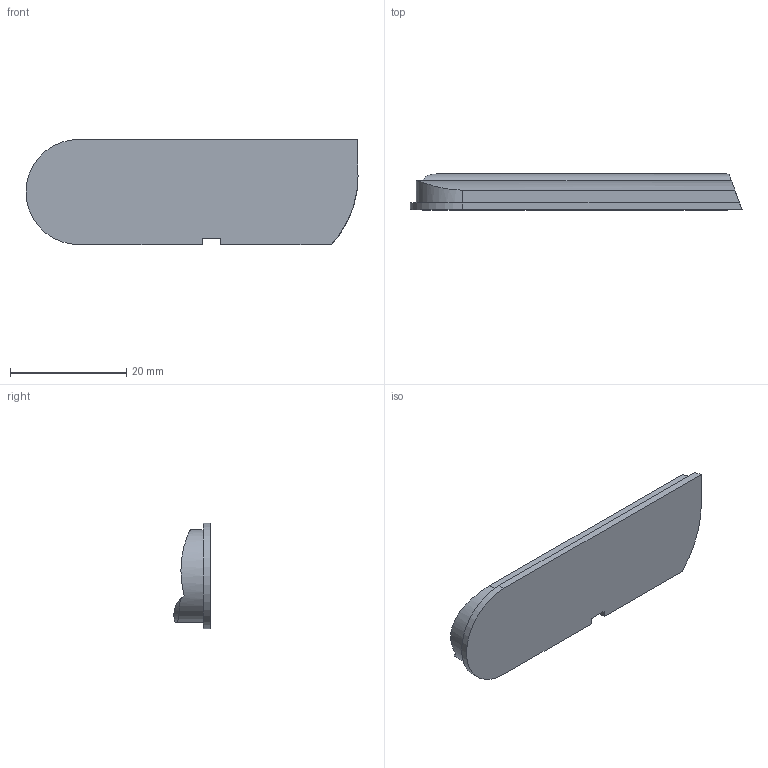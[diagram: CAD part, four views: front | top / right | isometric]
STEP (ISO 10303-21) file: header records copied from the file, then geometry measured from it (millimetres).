
FILE_DESCRIPTION(/* description */ (''),/* implementation_level */ '2;1');
FILE_NAME(/* name */ 'Modular Forward Assist Delete v3.step',/* time_stamp */ '2022-12-09T17:20:50-05:00',/* author */ (''),/* organization */ (''),/* preprocessor_version */ 'ST-DEVELOPER v19.2',/* originating_system */ 'Autodesk Translation Framework v11.17.0.187',/* authorisation */ '');
FILE_SCHEMA (('AUTOMOTIVE_DESIGN { 1 0 10303 214 3 1 1 }'));
Length unit declared in the file: millimetre
Products named in the file (1): Modular Forward Assist Delete
Bounding box: 57.1 x 6.2 x 18.1 mm (x, y, z)
Volume: 4316.4 mm3; surface area: 2630.9 mm2
Topology: 1 solids, 1 shells, 18 faces, 47 edges, 31 vertices
Faces by surface type: plane 11, cylinder 6, bspline 1
Entity records: 629 total; most frequent: CARTESIAN_POINT 153, ORIENTED_EDGE 94, DIRECTION 88, EDGE_CURVE 47, LINE 32, VECTOR 32, VERTEX_POINT 31, AXIS2_PLACEMENT_3D 28
